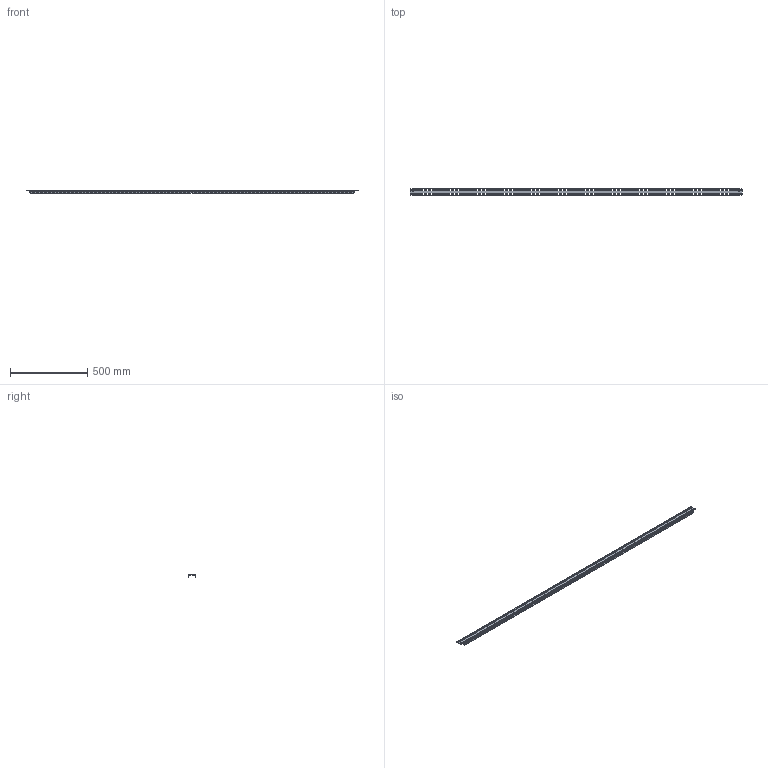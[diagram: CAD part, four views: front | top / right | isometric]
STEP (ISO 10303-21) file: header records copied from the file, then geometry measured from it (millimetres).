
FILE_DESCRIPTION (( 'STEP AP203' ), '1' );
FILE_NAME ('MRD 220.06 Ðåéêà ìîíòàæíàÿ âåðòèêàëüíàÿ.STEP', '2025-05-15T12:29:12', ( '' ), ( '' ), 'SwSTEP 2.0', 'SolidWorks 2019', '' );
FILE_SCHEMA (( 'CONFIG_CONTROL_DESIGN' ));
Length unit declared in the file: millimetre
Products named in the file (1): MRD 220.06 Ðåéêà ìîíòàæíàÿ âåðòèêàëüíàÿ
Bounding box: 2152 x 49 x 19.03 mm (x, y, z)
Volume: 265788.1 mm3; surface area: 309874.9 mm2
Topology: 1 solids, 1 shells, 3446 faces, 10284 edges, 6840 vertices
Faces by surface type: plane 2734, cylinder 712
Entity records: 117465 total; most frequent: CARTESIAN_POINT 20571, ORIENTED_EDGE 20568, DIRECTION 18602, EDGE_CURVE 10284, VECTOR 8860, LINE 8860, VERTEX_POINT 6840, AXIS2_PLACEMENT_3D 4871
